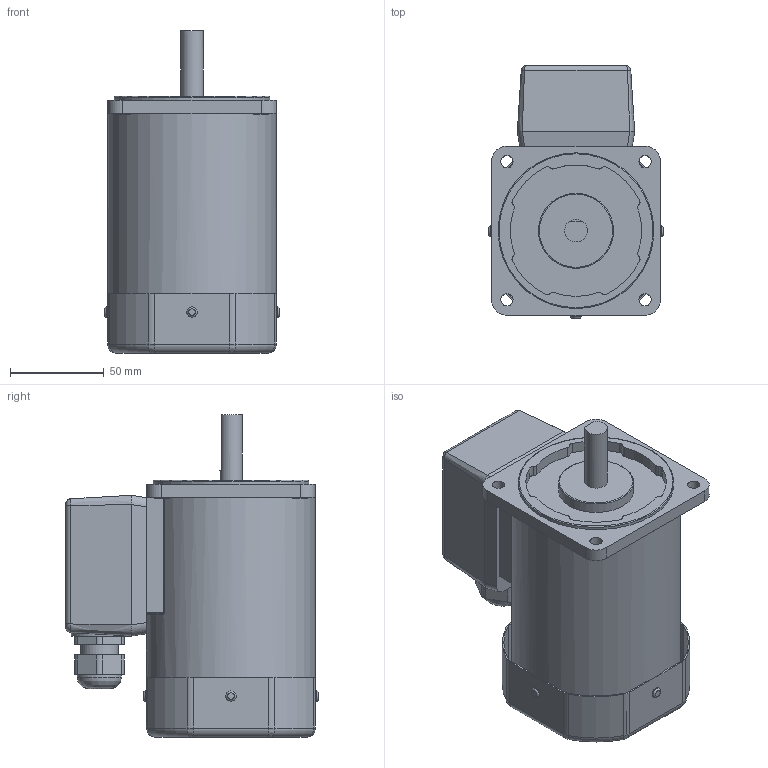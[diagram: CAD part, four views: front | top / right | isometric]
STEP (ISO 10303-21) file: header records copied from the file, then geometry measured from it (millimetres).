
FILE_DESCRIPTION((''),'2;1');
FILE_NAME('E:\2공장-도면\3D\표준형 3D(민규)\step file\K9IS120Fㅁ-T.stp','2014-11-13T09:59:36',('AHN'),(''),'Autodesk Inventor 2012','Autodesk Inventor 2012','');
FILE_SCHEMA(('CONFIG_CONTROL_DESIGN'));
Length unit declared in the file: millimetre
Products named in the file (3): K9IS120Fㅁ-T; K9IS90Fㅁ; TERMINAL BOX
Assembly tree (2 placements, depth 2):
  K9IS120Fㅁ-T
    K9IS90Fㅁ
    TERMINAL BOX
Bounding box: 93 x 134.5 x 172 mm (x, y, z)
Volume: 991864.4 mm3; surface area: 105764.2 mm2
Topology: 2 solids, 8 shells, 323 faces, 773 edges, 470 vertices
Faces by surface type: cylinder 151, plane 103, torus 48, bspline 21
Full cylindrical faces by diameter (mm): 5.5 x4, 6.5 x4, 8 x4, 12 x1, 20 x1, 23.5 x1, 40 x1, 83 x1, 90 x1
Entity records: 10513 total; most frequent: CARTESIAN_POINT 3019, DIRECTION 1584, ORIENTED_EDGE 1484, EDGE_CURVE 742, AXIS2_PLACEMENT_3D 619, VERTEX_POINT 466, EDGE_LOOP 396, VECTOR 346
